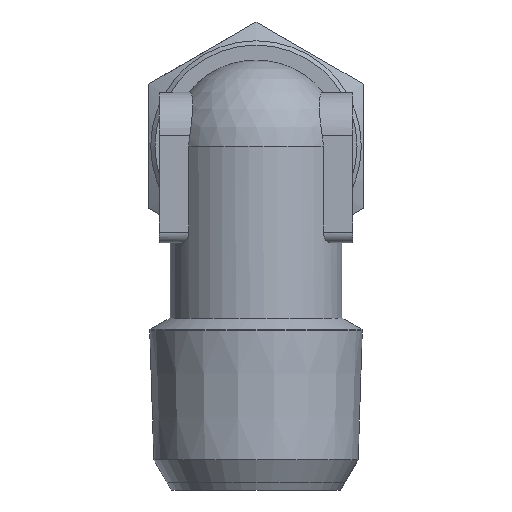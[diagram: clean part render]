
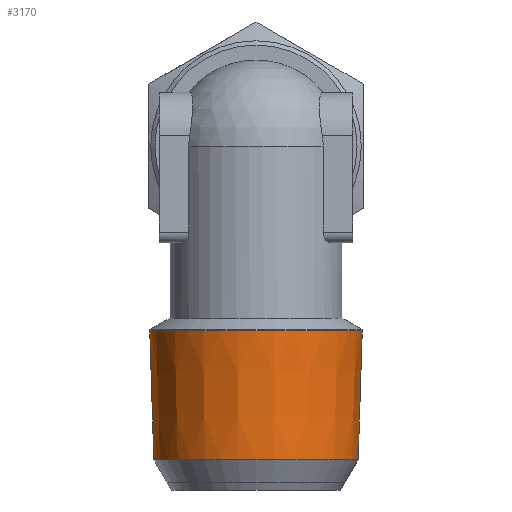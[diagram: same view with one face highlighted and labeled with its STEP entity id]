
A CAD part, left-side view. The second image highlights one B-rep face of the part: STEP entity #3170.
In plain terms, the highlighted conical face has half-angle 1.79 degrees and reference radius 4.942 mm.
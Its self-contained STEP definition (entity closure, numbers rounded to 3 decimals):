
#3170=ADVANCED_FACE('', (#3180,#3190), #3200, .T.);
#10070=AXIS2_PLACEMENT_3D('Ax2Pl3d', #10080, #10090, #10100);
#10110=AXIS2_PLACEMENT_3D('Ax2Pl3d', #10120, #10130, #10140);
#10150=AXIS2_PLACEMENT_3D('Ax2Pl3d', #10160, #10170, #10180);
#10080=CARTESIAN_POINT('HicPkt', (7.286,9.003,
12.381));
#10120=CARTESIAN_POINT('HicPkt', (7.286,9.003,
6.381));
#36940=CARTESIAN_POINT('', (7.286,4.248,6.381));
#10160=CARTESIAN_POINT('HicPkt', (7.286,9.003,
12.381));
#36950=CARTESIAN_POINT('', (7.286,13.945,12.381));
#37690=CIRCLE('Circle', #10110, 4.755);
#37700=CIRCLE('Circle', #10150, 4.942);
#3200=CONICAL_SURFACE('Kegel', #10070, 4.942, 
0.031);
#10090=DIRECTION('Axis', (0.,0.,1.));
#10100=DIRECTION('RefDirection', (1.,0.,-0.));
#10130=DIRECTION('Axis', (0.,0.,-1.));
#10140=DIRECTION('RefDirection', (-1.,-0.,0.));
#10170=DIRECTION('Axis', (0.,0.,1.));
#10180=DIRECTION('RefDirection', (1.,0.,-0.));
#46050=EDGE_CURVE('', #46060, #46060, #37690, .T.);
#46070=EDGE_CURVE('', #46080, #46080, #37700, .T.);
#50430=EDGE_LOOP('Edge_loop', (#50440));
#50450=EDGE_LOOP('Edge_loop', (#50460));
#3190=FACE_BOUND('', #50450, .T.);
#3180=FACE_OUTER_BOUND('Face_outer_bound', #50430, .T.);
#50440=ORIENTED_EDGE('', *, *, #46050, .F.);
#50460=ORIENTED_EDGE('', *, *, #46070, .F.);
#46060=VERTEX_POINT('', #36940);
#46080=VERTEX_POINT('', #36950);
